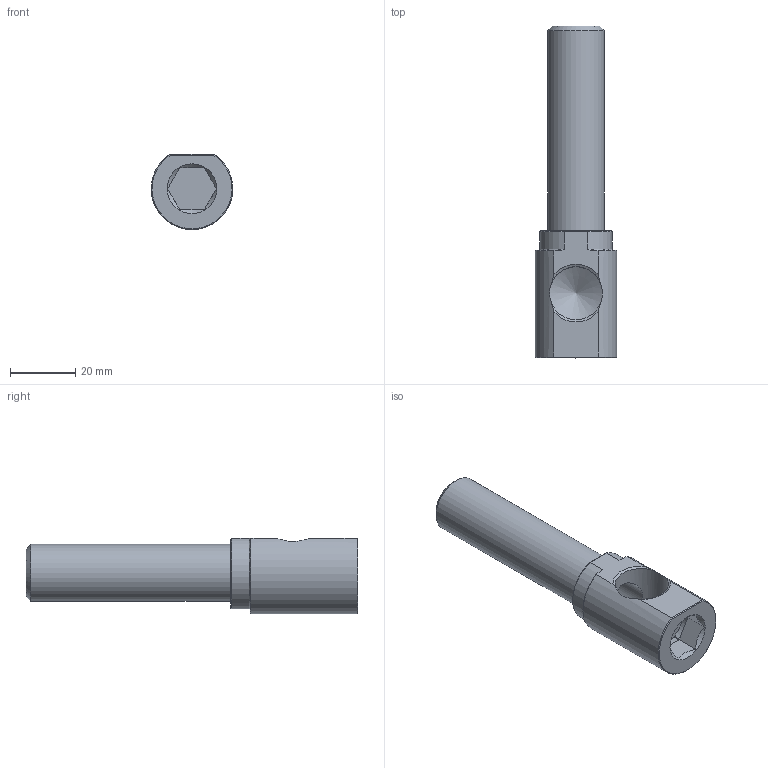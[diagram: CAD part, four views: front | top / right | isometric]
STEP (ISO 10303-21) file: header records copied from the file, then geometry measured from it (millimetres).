
FILE_DESCRIPTION(/* description */ (''),/* implementation_level */ '2;1');
FILE_NAME(/* name */ 'C:/Users/drich/Desktop/EKL38 X 4 v2.step',/* time_stamp */ '2019-11-18T14:41:28-06:00',/* author */ (''),/* organization */ (''),/* preprocessor_version */ 'ST-DEVELOPER v18',/* originating_system */ 'Autodesk Translation Framework v8.12.0.6',/* authorisation */ '');
FILE_SCHEMA (('AUTOMOTIVE_DESIGN { 1 0 10303 214 3 1 1 }'));
Length unit declared in the file: inch
Products named in the file (2): EKL38 X 4; EKL38 X 4_1
Assembly tree (1 placements, depth 2):
  EKL38 X 4
    EKL38 X 4_1
Bounding box: 25.01 x 101.6 x 23.03 mm (x, y, z)
Volume: 19171.7 mm3; surface area: 11113.2 mm2
Topology: 1 solids, 1 shells, 43 faces, 116 edges, 76 vertices
Faces by surface type: plane 21, cone 11, cylinder 11
Full cylindrical faces by diameter (mm): 11.887 x1, 16.231 x1, 17.328 x1
Entity records: 1459 total; most frequent: CARTESIAN_POINT 341, ORIENTED_EDGE 230, DIRECTION 218, EDGE_CURVE 115, AXIS2_PLACEMENT_3D 81, VERTEX_POINT 76, LINE 56, VECTOR 56
